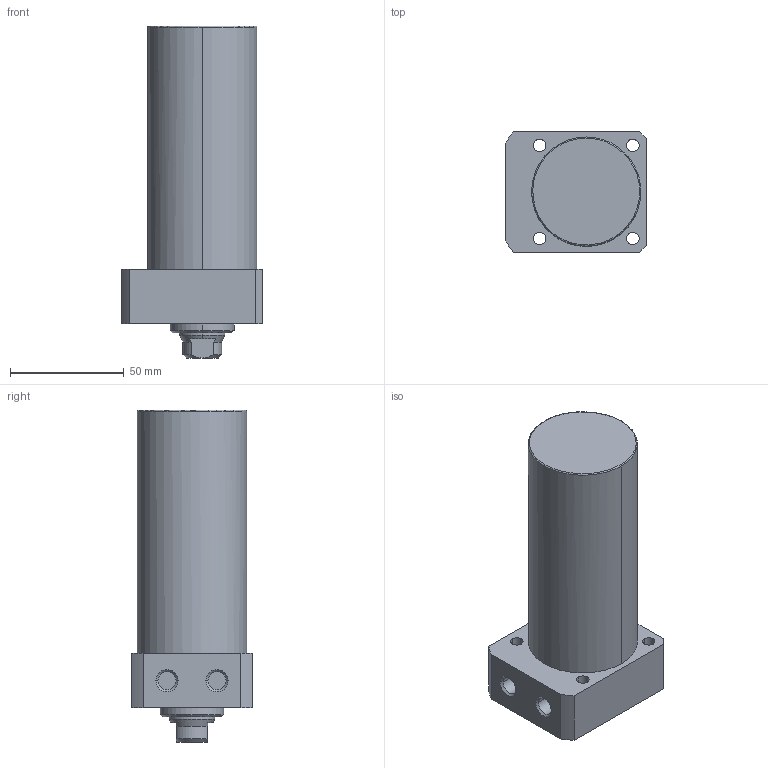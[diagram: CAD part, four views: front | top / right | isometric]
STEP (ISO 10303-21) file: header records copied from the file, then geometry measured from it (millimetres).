
FILE_DESCRIPTION((' '),'2;1');
FILE_NAME( 'TLLR-048CA-080.STEP.stp', '2025-10-24T16:34:30', (' '), ('--- Datakit www.datakit.com---'), ' Datakit CrossCadWare V2024.1 Dec 21 2023', 'Mastercam 2025', ' ');
FILE_SCHEMA(('AUTOMOTIVE_DESIGN { 1 0 10303 214 1 1 1 1 }'));
Length unit declared in the file: millimetre
Products named in the file (1): TLLR-048CA-080
Bounding box: 62 x 53 x 146 mm (x, y, z)
Volume: 271972.7 mm3; surface area: 31498.7 mm2
Topology: 1 solids, 1 shells, 63 faces, 177 edges, 122 vertices
Faces by surface type: cylinder 28, plane 19, cone 14, torus 2
Entity records: 2172 total; most frequent: CARTESIAN_POINT 409, DIRECTION 400, ORIENTED_EDGE 350, EDGE_CURVE 175, AXIS2_PLACEMENT_3D 169, VERTEX_POINT 122, CIRCLE 105, EDGE_LOOP 79
